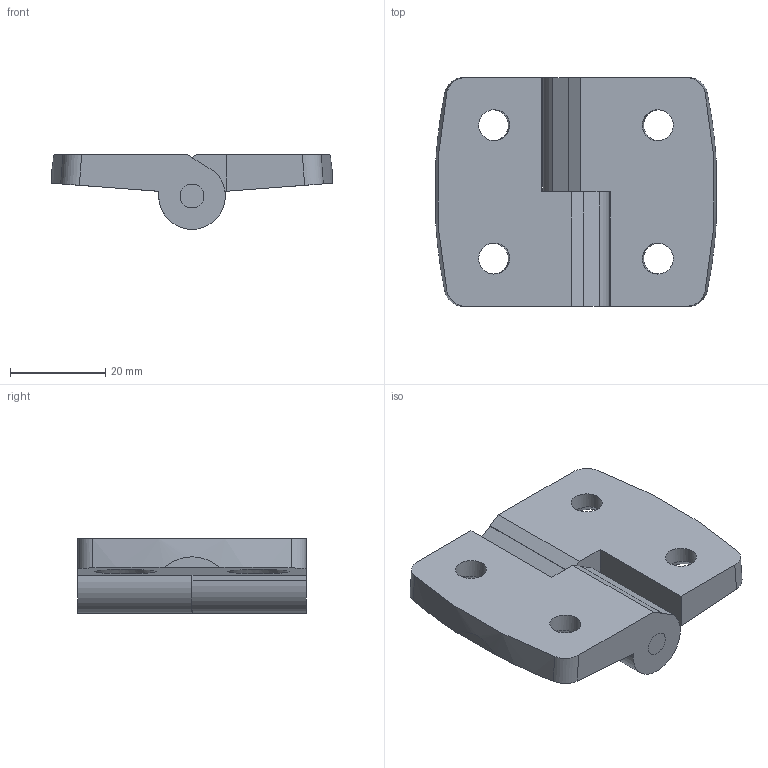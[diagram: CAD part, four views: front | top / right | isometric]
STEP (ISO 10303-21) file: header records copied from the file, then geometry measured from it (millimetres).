
FILE_DESCRIPTION((''),'2;1');
FILE_NAME('E:\catalogue and flyer\Profile catalogue 2015\Accessories ACC info\Accessories ACC step file 31Mar16\ACC-H6048R-8.stp','2016-04-07T13:21:52',('h029'),(''),'Autodesk Inventor 11','Autodesk Inventor 11','');
FILE_SCHEMA(('AUTOMOTIVE_DESIGN { 1 0 10303 214 1 1 1 1 }'));
Length unit declared in the file: millimetre
Products named in the file (3): ACC-H6048-8_MIR; Part1_MIR; pin_MIR
Assembly tree (3 placements, depth 2):
  ACC-H6048-8_MIR
    Part1_MIR  x2
    pin_MIR
Bounding box: 59 x 48 x 15.7 mm (x, y, z)
Volume: 21091.7 mm3; surface area: 9944.7 mm2
Topology: 3 solids, 3 shells, 45 faces, 117 edges, 78 vertices
Faces by surface type: bspline 37, cone 4, cylinder 4
Full cylindrical faces by diameter (mm): 6.5 x4
Entity records: 865 total; most frequent: CARTESIAN_POINT 278, ORIENTED_EDGE 104, DIRECTION 94, EDGE_CURVE 52, VERTEX_POINT 38, EDGE_LOOP 36, AXIS2_PLACEMENT_3D 32, VECTOR 30
